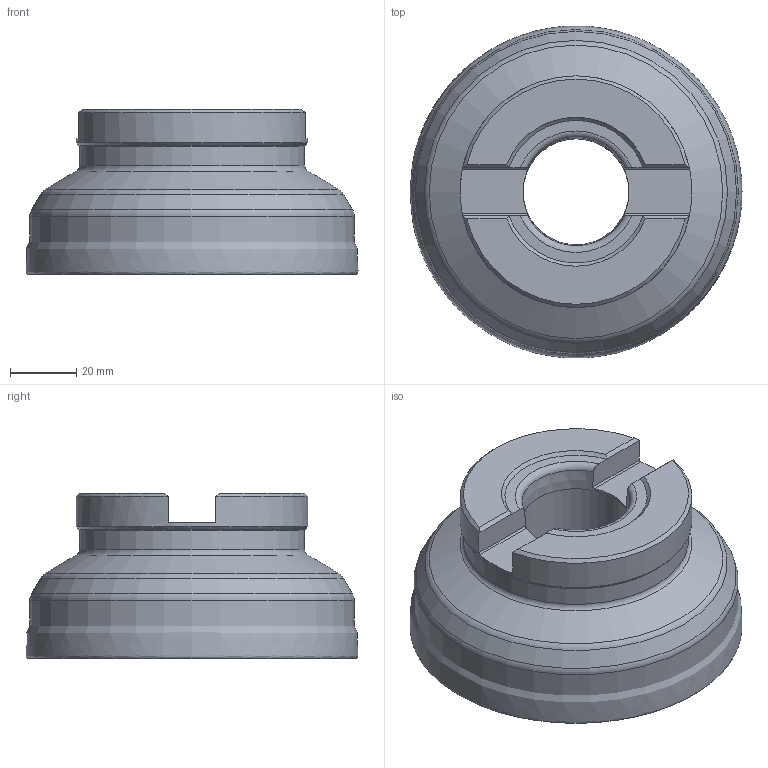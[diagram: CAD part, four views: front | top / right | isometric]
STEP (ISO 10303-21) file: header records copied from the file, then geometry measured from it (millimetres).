
FILE_DESCRIPTION(/* description */ (''),/* implementation_level */ '2;1');
FILE_NAME(/* name */ '637723489617494215.stp',/* time_stamp */ '2021-11-12T21:22:53+08:00',/* author */ (''),/* organization */ (''),/* preprocessor_version */ 'ST-DEVELOPER v16.7',/* originating_system */ 'SIEMENS PLM Software NX 12.0',/* authorisation */ '');
FILE_SCHEMA (('AUTOMOTIVE_DESIGN { 1 0 10303 214 3 1 1 1 }'));
Length unit declared in the file: millimetre
Products named in the file (2): 637723489566314649_WNHU080608PNR-GM; 637723489550499159_FMP12-100-B32-WN08-08_S
Assembly tree (8 placements, depth 2):
  637723489550499159_FMP12-100-B32-WN08-08_S
    637723489566314649_WNHU080608PNR-GM  x8
Bounding box: 100.24 x 100.24 x 49.84 mm (x, y, z)
Volume: 246510.2 mm3; surface area: 42416.3 mm2
Topology: 2 solids, 2 shells, 56 faces, 137 edges, 83 vertices
Faces by surface type: plane 16, cone 14, cylinder 10, torus 10, revolution 6
Full cylindrical faces by diameter (mm): 32 x1, 45 x1, 68 x1, 70 x1, 97.2 x1, 98 x1
Entity records: 1771 total; most frequent: CARTESIAN_POINT 541, DIRECTION 238, ORIENTED_EDGE 188, AXIS2_PLACEMENT_3D 104, EDGE_CURVE 94, EDGE_LOOP 86, VERTEX_POINT 70, FACE_BOUND 62
